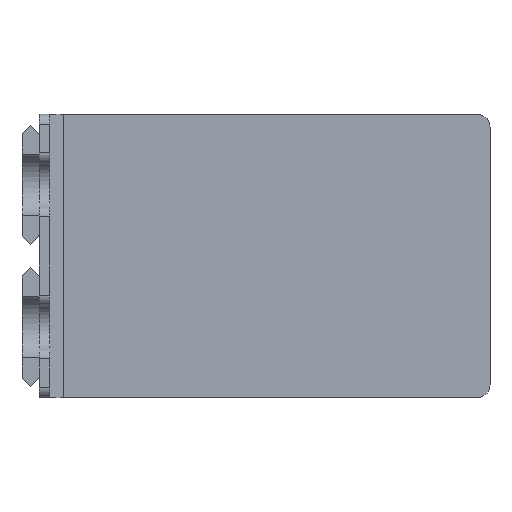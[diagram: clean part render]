
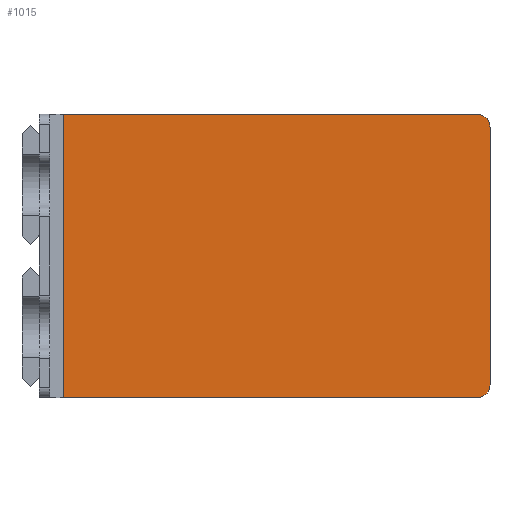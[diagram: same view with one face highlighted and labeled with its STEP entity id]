
A CAD part, top view. The second image highlights one B-rep face of the part: STEP entity #1015.
In plain terms, the highlighted planar face has unit normal (0, 0, 1).
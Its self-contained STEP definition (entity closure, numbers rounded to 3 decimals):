
#17=CIRCLE('',#1036,3.75);
#20=CIRCLE('',#1041,3.75);
#105=FACE_OUTER_BOUND('',#160,.T.);
#160=EDGE_LOOP('',(#916,#917,#918,#919,#920,#921));
#170=LINE('',#1404,#289);
#187=LINE('',#1443,#306);
#276=LINE('',#1666,#395);
#279=LINE('',#1671,#398);
#289=VECTOR('',#1122,10.);
#306=VECTOR('',#1153,10.);
#395=VECTOR('',#1372,10.);
#398=VECTOR('',#1379,10.);
#407=VERTEX_POINT('',#1401);
#408=VERTEX_POINT('',#1403);
#419=VERTEX_POINT('',#1433);
#420=VERTEX_POINT('',#1434);
#423=VERTEX_POINT('',#1442);
#492=VERTEX_POINT('',#1665);
#502=EDGE_CURVE('',#407,#408,#170,.T.);
#517=EDGE_CURVE('',#419,#420,#17,.T.);
#521=EDGE_CURVE('',#420,#423,#187,.T.);
#525=EDGE_CURVE('',#423,#407,#20,.T.);
#632=EDGE_CURVE('',#408,#492,#276,.T.);
#635=EDGE_CURVE('',#419,#492,#279,.T.);
#916=ORIENTED_EDGE('',*,*,#502,.F.);
#917=ORIENTED_EDGE('',*,*,#525,.F.);
#918=ORIENTED_EDGE('',*,*,#521,.F.);
#919=ORIENTED_EDGE('',*,*,#517,.F.);
#920=ORIENTED_EDGE('',*,*,#635,.T.);
#921=ORIENTED_EDGE('',*,*,#632,.F.);
#962=PLANE('',#1106);
#1015=ADVANCED_FACE('',(#105),#962,.F.);
#1036=AXIS2_PLACEMENT_3D('',#1435,#1145,#1146);
#1041=AXIS2_PLACEMENT_3D('',#1449,#1160,#1161);
#1106=AXIS2_PLACEMENT_3D('',#1672,#1380,#1381);
#1122=DIRECTION('',(-1.,0.,0.));
#1145=DIRECTION('center_axis',(0.,0.,-1.));
#1146=DIRECTION('ref_axis',(0.707,0.707,0.));
#1153=DIRECTION('',(0.,-1.,0.));
#1160=DIRECTION('center_axis',(0.,0.,-1.));
#1161=DIRECTION('ref_axis',(0.707,-0.707,0.));
#1372=DIRECTION('',(0.,1.,0.));
#1379=DIRECTION('',(-1.,0.,0.));
#1380=DIRECTION('center_axis',(0.,0.,-1.));
#1381=DIRECTION('ref_axis',(1.,0.,0.));
#1401=CARTESIAN_POINT('',(225.4,-20.8,-167.478));
#1403=CARTESIAN_POINT('',(103.15,-20.8,-167.478));
#1404=CARTESIAN_POINT('',(122.15,-20.8,-167.478));
#1433=CARTESIAN_POINT('',(225.4,62.8,-167.478));
#1434=CARTESIAN_POINT('',(229.15,59.05,-167.478));
#1435=CARTESIAN_POINT('Origin',(225.4,59.05,-167.478));
#1442=CARTESIAN_POINT('',(229.15,-17.05,-167.478));
#1443=CARTESIAN_POINT('',(229.15,21.,-167.478));
#1449=CARTESIAN_POINT('Origin',(225.4,-17.05,-167.478));
#1665=CARTESIAN_POINT('',(103.15,62.8,-167.478));
#1666=CARTESIAN_POINT('',(103.15,10.5,-167.478));
#1671=CARTESIAN_POINT('',(122.15,62.8,-167.478));
#1672=CARTESIAN_POINT('Origin',(122.15,21.,-167.478));
